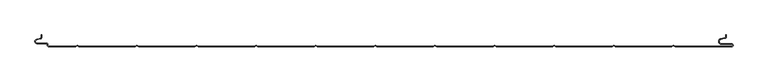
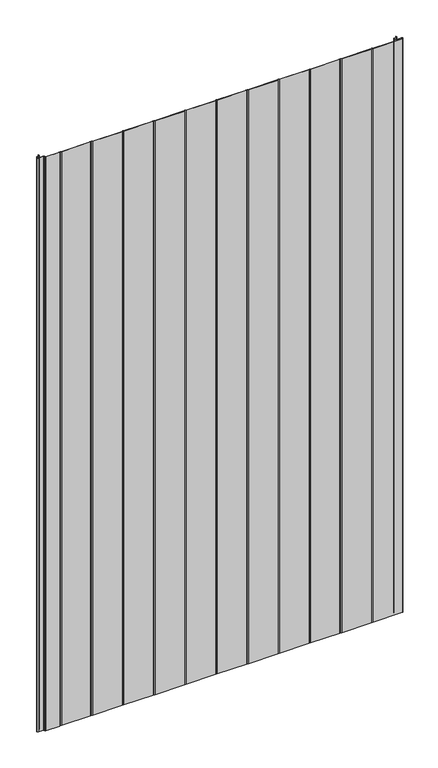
"""IFC4 building model written with IfcOpenShell, lengths in millimetres: plate geometry, PM1_Curtain-Panel_Perfil-Frigorífico : ACH_PM1_Panel-Acústico-Sectorización_150M."""

from ifc_helpers import new_model, si_unit, frame, origin, place, context, project, spatial, polyline, circle_curve, source, transform, mapped, element, save
from ifc_brep_helpers import plane_surface, cylinder_surface, revolved_surface, advanced_brep


def plate_b6f5b8fb(model_context):
    return source(origin(), model_context, "Body", "AdvancedBrep", [
        advanced_brep(
        [(-575.0, -134.121443, 1945.7507136), (-576.5500978, -136.0701831, 1945.7507136), (-582.7098239, -137.492268, 1945.7507136), (-581.9, -144.6, 1945.7507136), (-566.4, -144.6, 1945.7507136), (-564.4, -146.6, 1945.7507136), (-564.4, -148.0, 1945.7507136), (-562.4, -150.0, 1945.7507136), (-517.0999995, -150.0, 1945.7507136), (-514.4, -148.4411545, 1945.7507136), (-511.7000005, -150.0, 1945.7507136), (-417.0999995, -150.0, 1945.7507136), (-414.4, -148.4411545, 1945.7507136), (-411.7000005, -150.0, 1945.7507136), (-317.0999995, -150.0, 1945.7507136), (-314.4, -148.4411545, 1945.7507136), (-311.7000005, -150.0, 1945.7507136), (-217.0999995, -150.0, 1945.7507136), (-214.4, -148.4411545, 1945.7507136), (-211.7000005, -150.0, 1945.7507136), (-117.0999995, -150.0, 1945.7507136), (-114.4, -148.4411545, 1945.7507136), (-111.7000005, -150.0, 1945.7507136), (-17.0999995, -150.0, 1945.7507136), (-14.4, -148.4411545, 1945.7507136), (-11.7000005, -150.0, 1945.7507136), (82.9000005, -150.0, 1945.7507136), (85.6, -148.4411545, 1945.7507136), (88.2999995, -150.0, 1945.7507136), (182.9000005, -150.0, 1945.7507136), (185.6, -148.4411545, 1945.7507136), (188.2999995, -150.0, 1945.7507136), (282.9000005, -150.0, 1945.7507136), (285.6, -148.4411545, 1945.7507136), (288.2999995, -150.0, 1945.7507136), (382.9000005, -150.0, 1945.7507136), (385.6, -148.4411545, 1945.7507136), (388.2999995, -150.0, 1945.7507136), (482.9000005, -150.0, 1945.7507136), (485.6, -148.4411545, 1945.7507136), (488.2999995, -150.0, 1945.7507136), (583.1, -150.0, 1945.7507136), (585.6, -147.5, 1945.7507136), (583.1, -145.0, 1945.7507136), (566.1, -145.0, 1945.7507136), (565.405407, -137.060769, 1945.7507136), (571.8514855, -135.9241509, 1945.7507136), (574.0, -133.3636508, 1945.7507136), (574.0, -130.0, 1945.7507136), (573.2, -130.0, 1945.7507136), (573.2, -133.3636508, 1945.7507136), (571.7125669, -135.1363047, 1945.7507136), (565.2664884, -136.2729228, 1945.7507136), (566.1, -145.8, 1945.7507136), (583.1, -145.8, 1945.7507136), (583.1, -149.2, 1945.7507136), (488.5143588, -149.2, 1945.7507136), (485.6, -147.517394, 1945.7507136), (482.6856412, -149.2, 1945.7507136), (388.5143588, -149.2, 1945.7507136), (385.6, -147.517394, 1945.7507136), (382.6856412, -149.2, 1945.7507136), (288.5143588, -149.2, 1945.7507136), (285.6, -147.517394, 1945.7507136), (282.6856412, -149.2, 1945.7507136), (188.5143588, -149.2, 1945.7507136), (185.6, -147.517394, 1945.7507136), (182.6856412, -149.2, 1945.7507136), (88.5143588, -149.2, 1945.7507136), (85.6, -147.517394, 1945.7507136), (82.6856412, -149.2, 1945.7507136), (-11.4856412, -149.2, 1945.7507136), (-14.4, -147.517394, 1945.7507136), (-17.3143588, -149.2, 1945.7507136), (-111.4856412, -149.2, 1945.7507136), (-114.4, -147.517394, 1945.7507136), (-117.3143588, -149.2, 1945.7507136), (-211.4856412, -149.2, 1945.7507136), (-214.4, -147.517394, 1945.7507136), (-217.3143588, -149.2, 1945.7507136), (-311.4856412, -149.2, 1945.7507136), (-314.4, -147.517394, 1945.7507136), (-317.3143588, -149.2, 1945.7507136), (-411.4856412, -149.2, 1945.7507136), (-414.4, -147.517394, 1945.7507136), (-417.3143588, -149.2, 1945.7507136), (-511.4856412, -149.2, 1945.7507136), (-514.4, -147.517394, 1945.7507136), (-517.3143588, -149.2, 1945.7507136), (-562.4, -149.2, 1945.7507136), (-563.6, -148.0, 1945.7507136), (-563.6, -146.6, 1945.7507136), (-566.4, -143.8, 1945.7507136), (-581.9, -143.8, 1945.7507136), (-582.529863, -138.2717638, 1945.7507136), (-576.370137, -136.849679, 1945.7507136), (-574.2, -134.121443, 1945.7507136), (-574.2, -130.0, 1945.7507136), (-575.0, -130.0, 1945.7507136), (-575.0, -134.121443, 0.0), (-575.0, -130.0, 0.0), (-574.2, -130.0, 0.0), (-574.2, -134.121443, 0.0), (-576.370137, -136.8496792, 0.0), (-582.529863, -138.271764, 0.0), (-581.9, -143.8, 0.0), (-566.4, -143.8, 0.0), (-563.6, -146.6, 0.0), (-563.6, -148.0, 0.0), (-562.4, -149.2, 0.0), (-517.3143588, -149.2, 0.0), (-514.4, -147.517394, 0.0), (-511.4856412, -149.2, 0.0), (-417.3143588, -149.2, 0.0), (-414.4, -147.517394, 0.0), (-411.4856412, -149.2, 0.0), (-317.3143588, -149.2, 0.0), (-314.4, -147.517394, 0.0), (-311.4856412, -149.2, 0.0), (-217.3143588, -149.2, 0.0), (-214.4, -147.517394, 0.0), (-211.4856412, -149.2, 0.0), (-117.3143588, -149.2, 0.0), (-114.4, -147.517394, 0.0), (-111.4856412, -149.2, 0.0), (-17.3143588, -149.2, 0.0), (-14.4, -147.517394, 0.0), (-11.4856412, -149.2, 0.0), (82.6856412, -149.2, 0.0), (85.6, -147.517394, 0.0), (88.5143588, -149.2, 0.0), (182.6856412, -149.2, 0.0), (185.6, -147.517394, 0.0), (188.5143588, -149.2, 0.0), (282.6856412, -149.2, 0.0), (285.6, -147.517394, 0.0), (288.5143588, -149.2, 0.0), (382.6856412, -149.2, 0.0), (385.6, -147.517394, 0.0), (388.5143588, -149.2, 0.0), (482.6856412, -149.2, 0.0), (485.6, -147.517394, 0.0), (488.5143588, -149.2, 0.0), (583.1, -149.2, 0.0), (583.1, -145.8, 0.0), (566.1, -145.8, 0.0), (565.2664884, -136.2729229, 0.0), (571.7125669, -135.1363047, 0.0), (573.2, -133.3636508, 0.0), (573.2, -130.0, 0.0), (574.0, -130.0, 0.0), (574.0, -133.3636508, 0.0), (571.8514855, -135.9241509, 0.0), (565.405407, -137.060769, 0.0), (566.1, -145.0, 0.0), (583.1, -145.0, 0.0), (585.6, -147.5, 0.0), (583.1, -150.0, 0.0), (488.2999995, -150.0, 0.0), (485.6, -148.4411545, 0.0), (482.9000005, -150.0, 0.0), (388.2999995, -150.0, 0.0), (385.6, -148.4411545, 0.0), (382.9000005, -150.0, 0.0), (288.2999995, -150.0, 0.0), (285.6, -148.4411545, 0.0), (282.9000005, -150.0, 0.0), (188.2999995, -150.0, 0.0), (185.6, -148.4411545, 0.0), (182.9000005, -150.0, 0.0), (88.2999995, -150.0, 0.0), (85.6, -148.4411545, 0.0), (82.9000005, -150.0, 0.0), (-11.7000005, -150.0, 0.0), (-14.4, -148.4411545, 0.0), (-17.0999995, -150.0, 0.0), (-111.7000005, -150.0, 0.0), (-114.4, -148.4411545, 0.0), (-117.0999995, -150.0, 0.0), (-211.7000005, -150.0, 0.0), (-214.4, -148.4411545, 0.0), (-217.0999995, -150.0, 0.0), (-311.7000005, -150.0, 0.0), (-314.4, -148.4411545, 0.0), (-317.0999995, -150.0, 0.0), (-411.7000005, -150.0, 0.0), (-414.4, -148.4411545, 0.0), (-417.0999995, -150.0, 0.0), (-511.7000005, -150.0, 0.0), (-514.4, -148.4411545, 0.0), (-517.0999995, -150.0, 0.0), (-562.4, -150.0, 0.0), (-564.4, -148.0, 0.0), (-564.4, -146.6, 0.0), (-566.4, -144.6, 0.0), (-581.9, -144.6, 0.0), (-582.7098239, -137.4922678, 0.0), (-576.5500979, -136.070183, 0.0)],
        [
            (0, 1, circle_curve(frame((-577.0, -134.121443, 1945.7507136), z_axis=(0.0, 0.0, -1.0), x_axis=(1.0, 0.0, 0.0)), 2.0)),
            (1, 2),
            (2, 3, circle_curve(frame((-581.9, -141.0, 1945.7507136), z_axis=(0.0, 0.0, 1.0), x_axis=(1.0, 0.0, 0.0)), 3.6)),
            (3, 4),
            (4, 5, circle_curve(frame((-566.4, -146.6, 1945.7507136), z_axis=(0.0, 0.0, -1.0), x_axis=(1.0, 0.0, 0.0)), 2.0)),
            (5, 6),
            (6, 7, circle_curve(frame((-562.4, -148.0, 1945.7507136), z_axis=(0.0, 0.0, 1.0), x_axis=(1.0, 0.0, 0.0)), 2.0)),
            (7, 8),
            (8, 9),
            (9, 10),
            (10, 11),
            (11, 12),
            (12, 13),
            (13, 14),
            (14, 15),
            (15, 16),
            (16, 17),
            (17, 18),
            (18, 19),
            (19, 20),
            (20, 21),
            (21, 22),
            (22, 23),
            (23, 24),
            (24, 25),
            (25, 26),
            (26, 27),
            (27, 28),
            (28, 29),
            (29, 30),
            (30, 31),
            (31, 32),
            (32, 33),
            (33, 34),
            (34, 35),
            (35, 36),
            (36, 37),
            (37, 38),
            (38, 39),
            (39, 40),
            (40, 41),
            (41, 42, circle_curve(frame((583.1, -147.5, 1945.7507136), z_axis=(0.0, 0.0, 1.0), x_axis=(1.0, 0.0, 0.0)), 2.5)),
            (42, 43, circle_curve(frame((583.1, -147.5, 1945.7507136), z_axis=(0.0, 0.0, 1.0), x_axis=(1.0, 0.0, 0.0)), 2.5)),
            (43, 44),
            (44, 45, circle_curve(frame((566.1, -141.0, 1945.7507136), z_axis=(0.0, 0.0, -1.0), x_axis=(1.0, 0.0, 0.0)), 4.0)),
            (45, 46),
            (46, 47, circle_curve(frame((571.4, -133.3636508, 1945.7507136), z_axis=(0.0, 0.0, 1.0), x_axis=(1.0, 0.0, 0.0)), 2.6)),
            (47, 48),
            (48, 49),
            (49, 50),
            (50, 51, circle_curve(frame((571.4, -133.3636508, 1945.7507136), z_axis=(0.0, 0.0, -1.0), x_axis=(1.0, 0.0, 0.0)), 1.8)),
            (51, 52),
            (52, 53, circle_curve(frame((566.1, -141.0, 1945.7507136), z_axis=(0.0, 0.0, 1.0), x_axis=(1.0, 0.0, 0.0)), 4.8)),
            (53, 54),
            (54, 55, circle_curve(frame((583.1, -147.5, 1945.7507136), z_axis=(0.0, 0.0, -1.0), x_axis=(1.0, 0.0, 0.0)), 1.7)),
            (55, 56),
            (56, 57),
            (57, 58),
            (58, 59),
            (59, 60),
            (60, 61),
            (61, 62),
            (62, 63),
            (63, 64),
            (64, 65),
            (65, 66),
            (66, 67),
            (67, 68),
            (68, 69),
            (69, 70),
            (70, 71),
            (71, 72),
            (72, 73),
            (73, 74),
            (74, 75),
            (75, 76),
            (76, 77),
            (77, 78),
            (78, 79),
            (79, 80),
            (80, 81),
            (81, 82),
            (82, 83),
            (83, 84),
            (84, 85),
            (85, 86),
            (86, 87),
            (87, 88),
            (88, 89),
            (89, 90, circle_curve(frame((-562.4, -148.0, 1945.7507136), z_axis=(0.0, 0.0, -1.0), x_axis=(1.0, 0.0, 0.0)), 1.2)),
            (90, 91),
            (91, 92, circle_curve(frame((-566.4, -146.6, 1945.7507136), z_axis=(0.0, 0.0, 1.0), x_axis=(1.0, 0.0, 0.0)), 2.8)),
            (92, 93),
            (93, 94, circle_curve(frame((-581.9, -141.0, 1945.7507136), z_axis=(0.0, 0.0, -1.0), x_axis=(1.0, 0.0, 0.0)), 2.8)),
            (94, 95),
            (95, 96, circle_curve(frame((-577.0, -134.121443, 1945.7507136), z_axis=(0.0, 0.0, 1.0), x_axis=(1.0, 0.0, 0.0)), 2.8)),
            (96, 97),
            (97, 98),
            (98, 0),
            (99, 100),
            (100, 101),
            (101, 102),
            (102, 103, circle_curve(frame((-577.0, -134.121443, 0.0), z_axis=(0.0, 0.0, -1.0), x_axis=(1.0, 0.0, 0.0)), 2.8)),
            (103, 104),
            (104, 105, circle_curve(frame((-581.9, -141.0, 0.0), z_axis=(0.0, 0.0, 1.0), x_axis=(1.0, 0.0, 0.0)), 2.8)),
            (105, 106),
            (106, 107, circle_curve(frame((-566.4, -146.6, 0.0), z_axis=(0.0, 0.0, -1.0), x_axis=(1.0, 0.0, 0.0)), 2.8)),
            (107, 108),
            (108, 109, circle_curve(frame((-562.4, -148.0, 0.0), z_axis=(0.0, 0.0, 1.0), x_axis=(1.0, 0.0, 0.0)), 1.2)),
            (109, 110),
            (110, 111),
            (111, 112),
            (112, 113),
            (113, 114),
            (114, 115),
            (115, 116),
            (116, 117),
            (117, 118),
            (118, 119),
            (119, 120),
            (120, 121),
            (121, 122),
            (122, 123),
            (123, 124),
            (124, 125),
            (125, 126),
            (126, 127),
            (127, 128),
            (128, 129),
            (129, 130),
            (130, 131),
            (131, 132),
            (132, 133),
            (133, 134),
            (134, 135),
            (135, 136),
            (136, 137),
            (137, 138),
            (138, 139),
            (139, 140),
            (140, 141),
            (141, 142),
            (142, 143),
            (143, 144, circle_curve(frame((583.1, -147.5, 0.0), z_axis=(0.0, 0.0, 1.0), x_axis=(1.0, 0.0, 0.0)), 1.7)),
            (144, 145),
            (145, 146, circle_curve(frame((566.1, -141.0, 0.0), z_axis=(0.0, 0.0, -1.0), x_axis=(1.0, 0.0, 0.0)), 4.8)),
            (146, 147),
            (147, 148, circle_curve(frame((571.4, -133.3636508, 0.0), z_axis=(0.0, 0.0, 1.0), x_axis=(1.0, 0.0, 0.0)), 1.8)),
            (148, 149),
            (149, 150),
            (150, 151),
            (151, 152, circle_curve(frame((571.4, -133.3636508, 0.0), z_axis=(0.0, 0.0, -1.0), x_axis=(1.0, 0.0, 0.0)), 2.6)),
            (152, 153),
            (153, 154, circle_curve(frame((566.1, -141.0, 0.0), z_axis=(0.0, 0.0, 1.0), x_axis=(1.0, 0.0, 0.0)), 4.0)),
            (154, 155),
            (155, 156, circle_curve(frame((583.1, -147.5, 0.0), z_axis=(0.0, 0.0, -1.0), x_axis=(1.0, 0.0, 0.0)), 2.5)),
            (156, 157, circle_curve(frame((583.1, -147.5, 0.0), z_axis=(0.0, 0.0, -1.0), x_axis=(1.0, 0.0, 0.0)), 2.5)),
            (157, 158),
            (158, 159),
            (159, 160),
            (160, 161),
            (161, 162),
            (162, 163),
            (163, 164),
            (164, 165),
            (165, 166),
            (166, 167),
            (167, 168),
            (168, 169),
            (169, 170),
            (170, 171),
            (171, 172),
            (172, 173),
            (173, 174),
            (174, 175),
            (175, 176),
            (176, 177),
            (177, 178),
            (178, 179),
            (179, 180),
            (180, 181),
            (181, 182),
            (182, 183),
            (183, 184),
            (184, 185),
            (185, 186),
            (186, 187),
            (187, 188),
            (188, 189),
            (189, 190),
            (190, 191),
            (191, 192, circle_curve(frame((-562.4, -148.0, 0.0), z_axis=(0.0, 0.0, -1.0), x_axis=(1.0, 0.0, 0.0)), 2.0)),
            (192, 193),
            (193, 194, circle_curve(frame((-566.4, -146.6, 0.0), z_axis=(0.0, 0.0, 1.0), x_axis=(1.0, 0.0, 0.0)), 2.0)),
            (194, 195),
            (195, 196, circle_curve(frame((-581.9, -141.0, 0.0), z_axis=(0.0, 0.0, -1.0), x_axis=(1.0, 0.0, 0.0)), 3.6)),
            (196, 197),
            (197, 99, circle_curve(frame((-577.0, -134.121443, 0.0), z_axis=(0.0, 0.0, 1.0), x_axis=(1.0, 0.0, 0.0)), 2.0)),
            (0, 99),
            (197, 1),
            (196, 2),
            (195, 3),
            (194, 4),
            (193, 5),
            (192, 6),
            (191, 7),
            (190, 8),
            (189, 9),
            (188, 10),
            (187, 11),
            (186, 12),
            (185, 13),
            (184, 14),
            (183, 15),
            (182, 16),
            (181, 17),
            (180, 18),
            (179, 19),
            (178, 20),
            (177, 21),
            (176, 22),
            (175, 23),
            (174, 24),
            (173, 25),
            (172, 26),
            (171, 27),
            (170, 28),
            (169, 29),
            (168, 30),
            (167, 31),
            (166, 32),
            (165, 33),
            (164, 34),
            (163, 35),
            (162, 36),
            (161, 37),
            (160, 38),
            (159, 39),
            (158, 40),
            (157, 41),
            (155, 43),
            (154, 44),
            (153, 45),
            (152, 46),
            (151, 47),
            (150, 48),
            (149, 49),
            (148, 50),
            (147, 51),
            (146, 52),
            (145, 53),
            (144, 54),
            (143, 55),
            (142, 56),
            (141, 57),
            (140, 58),
            (139, 59),
            (138, 60),
            (137, 61),
            (136, 62),
            (135, 63),
            (134, 64),
            (133, 65),
            (132, 66),
            (131, 67),
            (130, 68),
            (129, 69),
            (128, 70),
            (127, 71),
            (126, 72),
            (125, 73),
            (124, 74),
            (123, 75),
            (122, 76),
            (121, 77),
            (120, 78),
            (119, 79),
            (118, 80),
            (117, 81),
            (116, 82),
            (115, 83),
            (114, 84),
            (113, 85),
            (112, 86),
            (111, 87),
            (110, 88),
            (109, 89),
            (108, 90),
            (107, 91),
            (106, 92),
            (105, 93),
            (104, 94),
            (103, 95),
            (102, 96),
            (101, 97),
            (100, 98),
        ],
        [
            plane_surface(frame((-575.0, -150.0, 1945.7507136), z_axis=(0.0, 0.0, 1.0), x_axis=(0.0, 1.0, 0.0))),
            plane_surface(frame((-575.0, -150.0, 0.0), z_axis=(0.0, 0.0, -1.0), x_axis=(0.0, 1.0, 0.0))),
            revolved_surface(polyline([(-575.0, -134.121443, 0.0), (-575.0, -134.121443, 1945.7507136)]), (-577.0, -134.121443, 1945.7507136), (0.0, 0.0, -1.0)),
            plane_surface(frame((-576.5500979, -136.070183, 1945.7507136), z_axis=(-0.22495108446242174, 0.9743700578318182, 0.0), x_axis=(0.0, 0.0, -1.0))),
            cylinder_surface(frame((-581.9, -141.0, 1945.7507136), z_axis=(0.0, 0.0, 1.0), x_axis=(1.0, 0.0, 0.0)), 3.6),
            plane_surface(frame((-581.9, -144.6, 1945.7507136), z_axis=(0.0, -1.0, 0.0), x_axis=(0.0, 0.0, -1.0))),
            revolved_surface(polyline([(-564.4, -146.6, 0.0), (-564.4, -146.6, 1945.7507136)]), (-566.4, -146.6, 1945.7507136), (0.0, 0.0, -1.0)),
            plane_surface(frame((-564.4, -146.6, 1945.7507136), z_axis=(-1.0, 0.0, 0.0), x_axis=(0.0, 0.0, -1.0))),
            cylinder_surface(frame((-562.4, -148.0, 1945.7507136), z_axis=(0.0, 0.0, 1.0), x_axis=(1.0, 0.0, 0.0)), 2.0),
            plane_surface(frame((-562.4, -150.0, 1945.7507136), z_axis=(0.0, -1.0, 0.0), x_axis=(0.0, 0.0, -1.0))),
            plane_surface(frame((-517.0999995, -150.0, 1945.7507136), z_axis=(0.5000000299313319, -0.8660253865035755, 0.0), x_axis=(0.0, 0.0, -1.0))),
            plane_surface(frame((-514.4, -148.4411545, 1945.7507136), z_axis=(-0.5000000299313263, -0.8660253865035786, 0.0), x_axis=(0.0, 0.0, -1.0))),
            plane_surface(frame((-511.7000005, -150.0, 1945.7507136), z_axis=(0.0, -1.0, 0.0), x_axis=(0.0, 0.0, -1.0))),
            plane_surface(frame((-417.0999995, -150.0, 1945.7507136), z_axis=(0.5000000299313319, -0.8660253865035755, 0.0), x_axis=(0.0, 0.0, -1.0))),
            plane_surface(frame((-414.4, -148.4411545, 1945.7507136), z_axis=(-0.5000000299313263, -0.8660253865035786, 0.0), x_axis=(0.0, 0.0, -1.0))),
            plane_surface(frame((-411.7000005, -150.0, 1945.7507136), z_axis=(0.0, -1.0, 0.0), x_axis=(0.0, 0.0, -1.0))),
            plane_surface(frame((-317.0999995, -150.0, 1945.7507136), z_axis=(0.5000000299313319, -0.8660253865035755, 0.0), x_axis=(0.0, 0.0, -1.0))),
            plane_surface(frame((-314.4, -148.4411545, 1945.7507136), z_axis=(-0.5000000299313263, -0.8660253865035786, 0.0), x_axis=(0.0, 0.0, -1.0))),
            plane_surface(frame((-311.7000005, -150.0, 1945.7507136), z_axis=(0.0, -1.0, 0.0), x_axis=(0.0, 0.0, -1.0))),
            plane_surface(frame((-217.0999995, -150.0, 1945.7507136), z_axis=(0.5000000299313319, -0.8660253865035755, 0.0), x_axis=(0.0, 0.0, -1.0))),
            plane_surface(frame((-214.4, -148.4411545, 1945.7507136), z_axis=(-0.5000000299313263, -0.8660253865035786, 0.0), x_axis=(0.0, 0.0, -1.0))),
            plane_surface(frame((-211.7000005, -150.0, 1945.7507136), z_axis=(0.0, -1.0, 0.0), x_axis=(0.0, 0.0, -1.0))),
            plane_surface(frame((-117.0999995, -150.0, 1945.7507136), z_axis=(0.5000000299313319, -0.8660253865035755, 0.0), x_axis=(0.0, 0.0, -1.0))),
            plane_surface(frame((-114.4, -148.4411545, 1945.7507136), z_axis=(-0.5000000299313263, -0.8660253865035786, 0.0), x_axis=(0.0, 0.0, -1.0))),
            plane_surface(frame((-111.7000005, -150.0, 1945.7507136), z_axis=(0.0, -1.0, 0.0), x_axis=(0.0, 0.0, -1.0))),
            plane_surface(frame((-17.0999995, -150.0, 1945.7507136), z_axis=(0.5000000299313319, -0.8660253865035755, 0.0), x_axis=(0.0, 0.0, -1.0))),
            plane_surface(frame((-14.4, -148.4411545, 1945.7507136), z_axis=(-0.5000000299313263, -0.8660253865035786, 0.0), x_axis=(0.0, 0.0, -1.0))),
            plane_surface(frame((-11.7000005, -150.0, 1945.7507136), z_axis=(0.0, -1.0, 0.0), x_axis=(0.0, 0.0, -1.0))),
            plane_surface(frame((82.9000005, -150.0, 1945.7507136), z_axis=(0.5000000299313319, -0.8660253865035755, 0.0), x_axis=(0.0, 0.0, -1.0))),
            plane_surface(frame((85.6, -148.4411545, 1945.7507136), z_axis=(-0.5000000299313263, -0.8660253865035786, 0.0), x_axis=(0.0, 0.0, -1.0))),
            plane_surface(frame((88.2999995, -150.0, 1945.7507136), z_axis=(0.0, -1.0, 0.0), x_axis=(0.0, 0.0, -1.0))),
            plane_surface(frame((182.9000005, -150.0, 1945.7507136), z_axis=(0.5000000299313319, -0.8660253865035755, 0.0), x_axis=(0.0, 0.0, -1.0))),
            plane_surface(frame((185.6, -148.4411545, 1945.7507136), z_axis=(-0.5000000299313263, -0.8660253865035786, 0.0), x_axis=(0.0, 0.0, -1.0))),
            plane_surface(frame((188.2999995, -150.0, 1945.7507136), z_axis=(0.0, -1.0, 0.0), x_axis=(0.0, 0.0, -1.0))),
            plane_surface(frame((282.9000005, -150.0, 1945.7507136), z_axis=(0.5000000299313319, -0.8660253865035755, 0.0), x_axis=(0.0, 0.0, -1.0))),
            plane_surface(frame((285.6, -148.4411545, 1945.7507136), z_axis=(-0.5000000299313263, -0.8660253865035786, 0.0), x_axis=(0.0, 0.0, -1.0))),
            plane_surface(frame((288.2999995, -150.0, 1945.7507136), z_axis=(0.0, -1.0, 0.0), x_axis=(0.0, 0.0, -1.0))),
            plane_surface(frame((382.9000005, -150.0, 1945.7507136), z_axis=(0.5000000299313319, -0.8660253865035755, 0.0), x_axis=(0.0, 0.0, -1.0))),
            plane_surface(frame((385.6, -148.4411545, 1945.7507136), z_axis=(-0.5000000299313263, -0.8660253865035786, 0.0), x_axis=(0.0, 0.0, -1.0))),
            plane_surface(frame((388.2999995, -150.0, 1945.7507136), z_axis=(0.0, -1.0, 0.0), x_axis=(0.0, 0.0, -1.0))),
            plane_surface(frame((482.9000005, -150.0, 1945.7507136), z_axis=(0.5000000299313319, -0.8660253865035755, 0.0), x_axis=(0.0, 0.0, -1.0))),
            plane_surface(frame((485.6, -148.4411545, 1945.7507136), z_axis=(-0.5000000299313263, -0.8660253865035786, 0.0), x_axis=(0.0, 0.0, -1.0))),
            plane_surface(frame((535.6, -150.0, 1945.7507136), z_axis=(0.0, -1.0, 0.0), x_axis=(0.0, 0.0, -1.0))),
            cylinder_surface(frame((583.1, -147.5, 1945.7507136), z_axis=(0.0, 0.0, 1.0), x_axis=(1.0, 0.0, 0.0)), 2.5),
            plane_surface(frame((583.1, -145.0, 1945.7507136), z_axis=(0.0, 1.0, 0.0), x_axis=(0.0, 0.0, -1.0))),
            revolved_surface(polyline([(570.1, -141.0, 0.0), (570.1, -141.0, 1945.7507136)]), (566.1, -141.0, 1945.7507136), (0.0, 0.0, -1.0)),
            plane_surface(frame((565.405407, -137.060769, 1945.7507136), z_axis=(0.17364825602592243, -0.9848077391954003, 0.0), x_axis=(0.0, 0.0, -1.0))),
            cylinder_surface(frame((571.4, -133.3636508, 1945.7507136), z_axis=(0.0, 0.0, 1.0), x_axis=(1.0, 0.0, 0.0)), 2.6),
            plane_surface(frame((574.0, -133.3636508, 1945.7507136), z_axis=(1.0, 0.0, 0.0), x_axis=(0.0, 0.0, -1.0))),
            plane_surface(frame((574.0, -130.0, 1945.7507136), z_axis=(0.0, 1.0, 0.0), x_axis=(0.0, 0.0, -1.0))),
            plane_surface(frame((573.2, -130.0, 1945.7507136), z_axis=(-1.0, 0.0, 0.0), x_axis=(0.0, 0.0, -1.0))),
            revolved_surface(polyline([(573.1999999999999, -133.3636508, 0.0), (573.1999999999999, -133.3636508, 1945.7507136)]), (571.4, -133.3636508, 1945.7507136), (0.0, 0.0, -1.0)),
            plane_surface(frame((571.7125669, -135.1363047, 1945.7507136), z_axis=(-0.17364825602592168, 0.9848077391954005, 0.0), x_axis=(0.0, 0.0, -1.0))),
            cylinder_surface(frame((566.1, -141.0, 1945.7507136), z_axis=(0.0, 0.0, 1.0), x_axis=(1.0, 0.0, 0.0)), 4.8),
            plane_surface(frame((566.1, -145.8, 1945.7507136), z_axis=(0.0, -1.0, 0.0), x_axis=(0.0, 0.0, -1.0))),
            revolved_surface(polyline([(584.8000000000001, -147.5, 0.0), (584.8000000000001, -147.5, 1945.7507136)]), (583.1, -147.5, 1945.7507136), (0.0, 0.0, -1.0)),
            plane_surface(frame((535.6, -149.2, 1945.7507136), z_axis=(0.0, 1.0, 0.0), x_axis=(0.0, 0.0, -1.0))),
            plane_surface(frame((488.5143588, -149.2, 1945.7507136), z_axis=(0.5000000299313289, 0.8660253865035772, 0.0), x_axis=(0.0, 0.0, -1.0))),
            plane_surface(frame((485.6, -147.517394, 1945.7507136), z_axis=(-0.5000000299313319, 0.8660253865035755, 0.0), x_axis=(0.0, 0.0, -1.0))),
            plane_surface(frame((482.6856412, -149.2, 1945.7507136), z_axis=(0.0, 1.0, 0.0), x_axis=(0.0, 0.0, -1.0))),
            plane_surface(frame((388.5143588, -149.2, 1945.7507136), z_axis=(0.5000000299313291, 0.8660253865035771, 0.0), x_axis=(0.0, 0.0, -1.0))),
            plane_surface(frame((385.6, -147.517394, 1945.7507136), z_axis=(-0.500000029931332, 0.8660253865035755, 0.0), x_axis=(0.0, 0.0, -1.0))),
            plane_surface(frame((382.6856412, -149.2, 1945.7507136), z_axis=(0.0, 1.0, 0.0), x_axis=(0.0, 0.0, -1.0))),
            plane_surface(frame((288.5143588, -149.2, 1945.7507136), z_axis=(0.5000000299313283, 0.8660253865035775, 0.0), x_axis=(0.0, 0.0, -1.0))),
            plane_surface(frame((285.6, -147.517394, 1945.7507136), z_axis=(-0.5000000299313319, 0.8660253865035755, 0.0), x_axis=(0.0, 0.0, -1.0))),
            plane_surface(frame((282.6856412, -149.2, 1945.7507136), z_axis=(0.0, 1.0, 0.0), x_axis=(0.0, 0.0, -1.0))),
            plane_surface(frame((188.5143588, -149.2, 1945.7507136), z_axis=(0.5000000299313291, 0.8660253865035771, 0.0), x_axis=(0.0, 0.0, -1.0))),
            plane_surface(frame((185.6, -147.517394, 1945.7507136), z_axis=(-0.5000000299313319, 0.8660253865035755, 0.0), x_axis=(0.0, 0.0, -1.0))),
            plane_surface(frame((182.6856412, -149.2, 1945.7507136), z_axis=(0.0, 1.0, 0.0), x_axis=(0.0, 0.0, -1.0))),
            plane_surface(frame((88.5143588, -149.2, 1945.7507136), z_axis=(0.5000000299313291, 0.8660253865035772, 0.0), x_axis=(0.0, 0.0, -1.0))),
            plane_surface(frame((85.6, -147.517394, 1945.7507136), z_axis=(-0.5000000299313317, 0.8660253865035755, 0.0), x_axis=(0.0, 0.0, -1.0))),
            plane_surface(frame((82.6856412, -149.2, 1945.7507136), z_axis=(0.0, 1.0, 0.0), x_axis=(0.0, 0.0, -1.0))),
            plane_surface(frame((-11.4856412, -149.2, 1945.7507136), z_axis=(0.500000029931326, 0.8660253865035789, 0.0), x_axis=(0.0, 0.0, -1.0))),
            plane_surface(frame((-14.4, -147.517394, 1945.7507136), z_axis=(-0.500000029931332, 0.8660253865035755, 0.0), x_axis=(0.0, 0.0, -1.0))),
            plane_surface(frame((-17.3143588, -149.2, 1945.7507136), z_axis=(0.0, 1.0, 0.0), x_axis=(0.0, 0.0, -1.0))),
            plane_surface(frame((-111.4856412, -149.2, 1945.7507136), z_axis=(0.5000000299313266, 0.8660253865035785, 0.0), x_axis=(0.0, 0.0, -1.0))),
            plane_surface(frame((-114.4, -147.517394, 1945.7507136), z_axis=(-0.5000000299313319, 0.8660253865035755, 0.0), x_axis=(0.0, 0.0, -1.0))),
            plane_surface(frame((-117.3143588, -149.2, 1945.7507136), z_axis=(0.0, 1.0, 0.0), x_axis=(0.0, 0.0, -1.0))),
            plane_surface(frame((-211.4856412, -149.2, 1945.7507136), z_axis=(0.5000000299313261, 0.8660253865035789, 0.0), x_axis=(0.0, 0.0, -1.0))),
            plane_surface(frame((-214.4, -147.517394, 1945.7507136), z_axis=(-0.500000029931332, 0.8660253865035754, 0.0), x_axis=(0.0, 0.0, -1.0))),
            plane_surface(frame((-217.3143588, -149.2, 1945.7507136), z_axis=(0.0, 1.0, 0.0), x_axis=(0.0, 0.0, -1.0))),
            plane_surface(frame((-311.4856412, -149.2, 1945.7507136), z_axis=(0.5000000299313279, 0.8660253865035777, 0.0), x_axis=(0.0, 0.0, -1.0))),
            plane_surface(frame((-314.4, -147.517394, 1945.7507136), z_axis=(-0.5000000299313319, 0.8660253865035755, 0.0), x_axis=(0.0, 0.0, -1.0))),
            plane_surface(frame((-317.3143588, -149.2, 1945.7507136), z_axis=(0.0, 1.0, 0.0), x_axis=(0.0, 0.0, -1.0))),
            plane_surface(frame((-411.4856412, -149.2, 1945.7507136), z_axis=(0.5000000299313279, 0.8660253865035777, 0.0), x_axis=(0.0, 0.0, -1.0))),
            plane_surface(frame((-414.4, -147.517394, 1945.7507136), z_axis=(-0.5000000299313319, 0.8660253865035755, 0.0), x_axis=(0.0, 0.0, -1.0))),
            plane_surface(frame((-417.3143588, -149.2, 1945.7507136), z_axis=(0.0, 1.0, 0.0), x_axis=(0.0, 0.0, -1.0))),
            plane_surface(frame((-511.4856412, -149.2, 1945.7507136), z_axis=(0.5000000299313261, 0.8660253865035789, 0.0), x_axis=(0.0, 0.0, -1.0))),
            plane_surface(frame((-514.4, -147.517394, 1945.7507136), z_axis=(-0.5000000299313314, 0.8660253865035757, 0.0), x_axis=(0.0, 0.0, -1.0))),
            plane_surface(frame((-517.3143588, -149.2, 1945.7507136), z_axis=(0.0, 1.0, 0.0), x_axis=(0.0, 0.0, -1.0))),
            revolved_surface(polyline([(-561.1999999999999, -148.0, 0.0), (-561.1999999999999, -148.0, 1945.7507136)]), (-562.4, -148.0, 1945.7507136), (0.0, 0.0, -1.0)),
            plane_surface(frame((-563.6, -148.0, 1945.7507136), z_axis=(1.0, 0.0, 0.0), x_axis=(0.0, 0.0, -1.0))),
            cylinder_surface(frame((-566.4, -146.6, 1945.7507136), z_axis=(0.0, 0.0, 1.0), x_axis=(1.0, 0.0, 0.0)), 2.8),
            plane_surface(frame((-566.4, -143.8, 1945.7507136), z_axis=(0.0, 1.0, 0.0), x_axis=(0.0, 0.0, -1.0))),
            revolved_surface(polyline([(-579.1, -141.0, 0.0), (-579.1, -141.0, 1945.7507136)]), (-581.9, -141.0, 1945.7507136), (0.0, 0.0, -1.0)),
            plane_surface(frame((-582.529863, -138.271764, 1945.7507136), z_axis=(0.22495108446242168, -0.9743700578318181, 0.0), x_axis=(0.0, 0.0, -1.0))),
            cylinder_surface(frame((-577.0, -134.121443, 1945.7507136), z_axis=(0.0, 0.0, 1.0), x_axis=(1.0, 0.0, 0.0)), 2.8),
            plane_surface(frame((-574.2, -134.121443, 1945.7507136), z_axis=(1.0, 0.0, 0.0), x_axis=(0.0, 0.0, -1.0))),
            plane_surface(frame((-574.2, -130.0, 1945.7507136), z_axis=(0.0, 1.0, 0.0), x_axis=(0.0, 0.0, -1.0))),
            plane_surface(frame((-575.0, -130.0, 1945.7507136), z_axis=(-1.0, 0.0, 0.0), x_axis=(0.0, 0.0, -1.0))),
        ],
        [
            (0, [[1, 2, 3, 4, 5, 6, 7, 8, 9, 10, 11, 12, 13, 14, 15, 16, 17, 18, 19, 20, 21, 22, 23, 24, 25, 26, 27, 28, 29, 30, 31, 32, 33, 34, 35, 36, 37, 38, 39, 40, 41, 42, 43, 44, 45, 46, 47, 48, 49, 50, 51, 52, 53, 54, 55, 56, 57, 58, 59, 60, 61, 62, 63, 64, 65, 66, 67, 68, 69, 70, 71, 72, 73, 74, 75, 76, 77, 78, 79, 80, 81, 82, 83, 84, 85, 86, 87, 88, 89, 90, 91, 92, 93, 94, 95, 96, 97, 98, 99]]),
            (1, [[100, 101, 102, 103, 104, 105, 106, 107, 108, 109, 110, 111, 112, 113, 114, 115, 116, 117, 118, 119, 120, 121, 122, 123, 124, 125, 126, 127, 128, 129, 130, 131, 132, 133, 134, 135, 136, 137, 138, 139, 140, 141, 142, 143, 144, 145, 146, 147, 148, 149, 150, 151, 152, 153, 154, 155, 156, 157, 158, 159, 160, 161, 162, 163, 164, 165, 166, 167, 168, 169, 170, 171, 172, 173, 174, 175, 176, 177, 178, 179, 180, 181, 182, 183, 184, 185, 186, 187, 188, 189, 190, 191, 192, 193, 194, 195, 196, 197, 198]]),
            (2, [[-1, 199, -198, 200]]),
            (3, [[-2, -200, -197, 201]]),
            (4, [[-3, -201, -196, 202]]),
            (5, [[-4, -202, -195, 203]]),
            (6, [[-5, -203, -194, 204]]),
            (7, [[-6, -204, -193, 205]]),
            (8, [[-7, -205, -192, 206]]),
            (9, [[-8, -206, -191, 207]]),
            (10, [[-9, -207, -190, 208]]),
            (11, [[-10, -208, -189, 209]]),
            (12, [[-11, -209, -188, 210]]),
            (13, [[-12, -210, -187, 211]]),
            (14, [[-13, -211, -186, 212]]),
            (15, [[-14, -212, -185, 213]]),
            (16, [[-15, -213, -184, 214]]),
            (17, [[-16, -214, -183, 215]]),
            (18, [[-17, -215, -182, 216]]),
            (19, [[-18, -216, -181, 217]]),
            (20, [[-19, -217, -180, 218]]),
            (21, [[-20, -218, -179, 219]]),
            (22, [[-21, -219, -178, 220]]),
            (23, [[-22, -220, -177, 221]]),
            (24, [[-23, -221, -176, 222]]),
            (25, [[-24, -222, -175, 223]]),
            (26, [[-25, -223, -174, 224]]),
            (27, [[-26, -224, -173, 225]]),
            (28, [[-27, -225, -172, 226]]),
            (29, [[-28, -226, -171, 227]]),
            (30, [[-29, -227, -170, 228]]),
            (31, [[-30, -228, -169, 229]]),
            (32, [[-31, -229, -168, 230]]),
            (33, [[-32, -230, -167, 231]]),
            (34, [[-33, -231, -166, 232]]),
            (35, [[-34, -232, -165, 233]]),
            (36, [[-35, -233, -164, 234]]),
            (37, [[-36, -234, -163, 235]]),
            (38, [[-37, -235, -162, 236]]),
            (39, [[-38, -236, -161, 237]]),
            (40, [[-39, -237, -160, 238]]),
            (41, [[-40, -238, -159, 239]]),
            (42, [[-41, -239, -158, 240]]),
            (43, [[-240, -157, -156, 241, -43, -42]]),
            (44, [[-44, -241, -155, 242]]),
            (45, [[-45, -242, -154, 243]]),
            (46, [[-46, -243, -153, 244]]),
            (47, [[-47, -244, -152, 245]]),
            (48, [[-48, -245, -151, 246]]),
            (49, [[-49, -246, -150, 247]]),
            (50, [[-50, -247, -149, 248]]),
            (51, [[-51, -248, -148, 249]]),
            (52, [[-52, -249, -147, 250]]),
            (53, [[-53, -250, -146, 251]]),
            (54, [[-54, -251, -145, 252]]),
            (55, [[-55, -252, -144, 253]]),
            (56, [[-56, -253, -143, 254]]),
            (57, [[-57, -254, -142, 255]]),
            (58, [[-58, -255, -141, 256]]),
            (59, [[-59, -256, -140, 257]]),
            (60, [[-60, -257, -139, 258]]),
            (61, [[-61, -258, -138, 259]]),
            (62, [[-62, -259, -137, 260]]),
            (63, [[-63, -260, -136, 261]]),
            (64, [[-64, -261, -135, 262]]),
            (65, [[-65, -262, -134, 263]]),
            (66, [[-66, -263, -133, 264]]),
            (67, [[-67, -264, -132, 265]]),
            (68, [[-68, -265, -131, 266]]),
            (69, [[-69, -266, -130, 267]]),
            (70, [[-70, -267, -129, 268]]),
            (71, [[-71, -268, -128, 269]]),
            (72, [[-72, -269, -127, 270]]),
            (73, [[-73, -270, -126, 271]]),
            (74, [[-74, -271, -125, 272]]),
            (75, [[-75, -272, -124, 273]]),
            (76, [[-76, -273, -123, 274]]),
            (77, [[-77, -274, -122, 275]]),
            (78, [[-78, -275, -121, 276]]),
            (79, [[-79, -276, -120, 277]]),
            (80, [[-80, -277, -119, 278]]),
            (81, [[-81, -278, -118, 279]]),
            (82, [[-82, -279, -117, 280]]),
            (83, [[-83, -280, -116, 281]]),
            (84, [[-84, -281, -115, 282]]),
            (85, [[-85, -282, -114, 283]]),
            (86, [[-86, -283, -113, 284]]),
            (87, [[-87, -284, -112, 285]]),
            (88, [[-88, -285, -111, 286]]),
            (89, [[-89, -286, -110, 287]]),
            (90, [[-90, -287, -109, 288]]),
            (91, [[-91, -288, -108, 289]]),
            (92, [[-92, -289, -107, 290]]),
            (93, [[-93, -290, -106, 291]]),
            (94, [[-94, -291, -105, 292]]),
            (95, [[-95, -292, -104, 293]]),
            (96, [[-96, -293, -103, 294]]),
            (97, [[-97, -294, -102, 295]]),
            (98, [[-98, -295, -101, 296]]),
            (99, [[-99, -296, -100, -199]]),
        ],
    ),
    ])


if __name__ == "__main__":
    model = new_model("IFC4")
    model_context = context("Model", 3, world=origin())
    ifc_project = project(units=[si_unit("LENGTHUNIT", "METRE", prefix="MILLI")], contexts=[model_context])
    site = spatial("IfcSite", under=ifc_project)
    building = spatial("IfcBuilding", under=site)
    placement = place(None, origin())
    plate_shape = plate_b6f5b8fb(model_context)
    element("IfcPlate", 1, ObjectType="PM1_Curtain-Panel_Perfil-Frigorífico : ACH_PM1_Panel-Acústico-Sectorización_150M", at=placement, inside=building, context=model_context, shape_type="MappedRepresentation", body=[
        mapped(plate_shape, transform((0.0, 0.0, 0.0), x_axis=(1.0, 0.0, 0.0), y_axis=(0.0, 1.0, 0.0), z_axis=(0.0, 0.0, 1.0))),
    ])
    save(model, "model.ifc")
